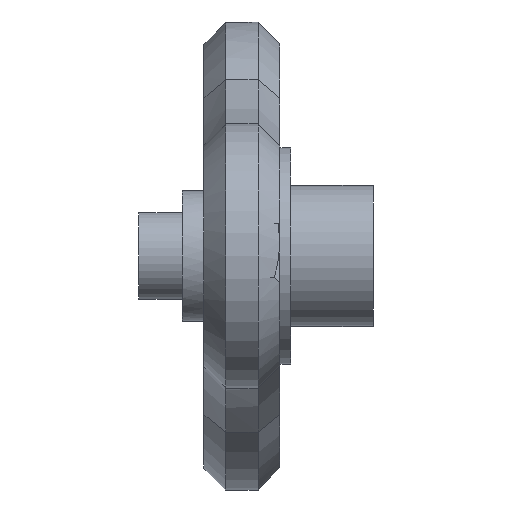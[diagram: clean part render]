
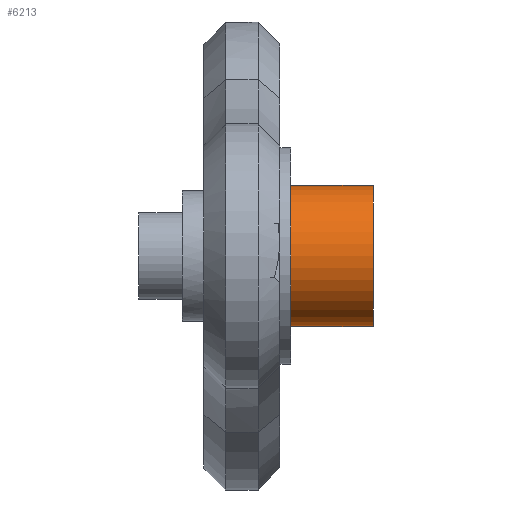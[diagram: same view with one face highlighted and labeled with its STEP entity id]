
A CAD part, left-side view. The second image highlights one B-rep face of the part: STEP entity #6213.
In plain terms, the highlighted cylindrical face has radius 3.25 mm (diameter 6.5 mm), a partial arc.
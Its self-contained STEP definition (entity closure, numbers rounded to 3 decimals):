
#776 = VERTEX_POINT('',#777);
#777 = CARTESIAN_POINT('',(0.,-4.3,-3.25));
#778 = VERTEX_POINT('',#779);
#779 = CARTESIAN_POINT('',(0.,-4.3,3.25));
#787 = CYLINDRICAL_SURFACE('',#788,3.25);
#788 = AXIS2_PLACEMENT_3D('',#789,#790,#791);
#789 = CARTESIAN_POINT('',(0.,-4.3,0.));
#790 = DIRECTION('',(0.,1.,0.));
#791 = DIRECTION('',(0.,-0.,1.));
#799 = PLANE('',#800);
#800 = AXIS2_PLACEMENT_3D('',#801,#802,#803);
#801 = CARTESIAN_POINT('',(0.,-4.3,0.));
#802 = DIRECTION('',(0.,-1.,-0.));
#803 = DIRECTION('',(0.,0.,-1.));
#811 = EDGE_CURVE('',#776,#812,#814,.T.);
#812 = VERTEX_POINT('',#813);
#813 = CARTESIAN_POINT('',(0.,-0.5,-3.25));
#814 = SURFACE_CURVE('',#815,(#819,#826),.PCURVE_S1.);
#815 = LINE('',#816,#817);
#816 = CARTESIAN_POINT('',(0.,-4.3,-3.25));
#817 = VECTOR('',#818,1.);
#818 = DIRECTION('',(0.,1.,0.));
#819 = PCURVE('',#787,#820);
#820 = DEFINITIONAL_REPRESENTATION('',(#821),#825);
#821 = LINE('',#822,#823);
#822 = CARTESIAN_POINT('',(3.142,0.));
#823 = VECTOR('',#824,1.);
#824 = DIRECTION('',(0.,1.));
#825 = ( GEOMETRIC_REPRESENTATION_CONTEXT(2) 
PARAMETRIC_REPRESENTATION_CONTEXT() REPRESENTATION_CONTEXT('2D SPACE',''
  ) );
#826 = PCURVE('',#827,#832);
#827 = CYLINDRICAL_SURFACE('',#828,3.25);
#828 = AXIS2_PLACEMENT_3D('',#829,#830,#831);
#829 = CARTESIAN_POINT('',(0.,-4.3,0.));
#830 = DIRECTION('',(0.,1.,0.));
#831 = DIRECTION('',(0.,-0.,1.));
#832 = DEFINITIONAL_REPRESENTATION('',(#833),#837);
#833 = LINE('',#834,#835);
#834 = CARTESIAN_POINT('',(3.142,0.));
#835 = VECTOR('',#836,1.);
#836 = DIRECTION('',(0.,1.));
#837 = ( GEOMETRIC_REPRESENTATION_CONTEXT(2) 
PARAMETRIC_REPRESENTATION_CONTEXT() REPRESENTATION_CONTEXT('2D SPACE',''
  ) );
#840 = VERTEX_POINT('',#841);
#841 = CARTESIAN_POINT('',(0.,-0.5,3.25));
#856 = PLANE('',#857);
#857 = AXIS2_PLACEMENT_3D('',#858,#859,#860);
#858 = CARTESIAN_POINT('',(0.,-0.5,0.));
#859 = DIRECTION('',(0.,-1.,-0.));
#860 = DIRECTION('',(0.,0.,-1.));
#868 = EDGE_CURVE('',#778,#840,#869,.T.);
#869 = SURFACE_CURVE('',#870,(#874,#881),.PCURVE_S1.);
#870 = LINE('',#871,#872);
#871 = CARTESIAN_POINT('',(0.,-4.3,3.25));
#872 = VECTOR('',#873,1.);
#873 = DIRECTION('',(0.,1.,0.));
#874 = PCURVE('',#787,#875);
#875 = DEFINITIONAL_REPRESENTATION('',(#876),#880);
#876 = LINE('',#877,#878);
#877 = CARTESIAN_POINT('',(0.,0.));
#878 = VECTOR('',#879,1.);
#879 = DIRECTION('',(0.,1.));
#880 = ( GEOMETRIC_REPRESENTATION_CONTEXT(2) 
PARAMETRIC_REPRESENTATION_CONTEXT() REPRESENTATION_CONTEXT('2D SPACE',''
  ) );
#881 = PCURVE('',#827,#882);
#882 = DEFINITIONAL_REPRESENTATION('',(#883),#887);
#883 = LINE('',#884,#885);
#884 = CARTESIAN_POINT('',(6.283,0.));
#885 = VECTOR('',#886,1.);
#886 = DIRECTION('',(0.,1.));
#887 = ( GEOMETRIC_REPRESENTATION_CONTEXT(2) 
PARAMETRIC_REPRESENTATION_CONTEXT() REPRESENTATION_CONTEXT('2D SPACE',''
  ) );
#5963 = EDGE_CURVE('',#840,#812,#5964,.T.);
#5964 = SURFACE_CURVE('',#5965,(#5970,#5977),.PCURVE_S1.);
#5965 = CIRCLE('',#5966,3.25);
#5966 = AXIS2_PLACEMENT_3D('',#5967,#5968,#5969);
#5967 = CARTESIAN_POINT('',(0.,-0.5,0.));
#5968 = DIRECTION('',(0.,-1.,0.));
#5969 = DIRECTION('',(-0.,0.,-1.));
#5970 = PCURVE('',#856,#5971);
#5971 = DEFINITIONAL_REPRESENTATION('',(#5972),#5976);
#5972 = CIRCLE('',#5973,3.25);
#5973 = AXIS2_PLACEMENT_2D('',#5974,#5975);
#5974 = CARTESIAN_POINT('',(0.,0.));
#5975 = DIRECTION('',(1.,0.));
#5976 = ( GEOMETRIC_REPRESENTATION_CONTEXT(2) 
PARAMETRIC_REPRESENTATION_CONTEXT() REPRESENTATION_CONTEXT('2D SPACE',''
  ) );
#5977 = PCURVE('',#827,#5978);
#5978 = DEFINITIONAL_REPRESENTATION('',(#5979),#5983);
#5979 = LINE('',#5980,#5981);
#5980 = CARTESIAN_POINT('',(9.425,3.8));
#5981 = VECTOR('',#5982,1.);
#5982 = DIRECTION('',(-1.,0.));
#5983 = ( GEOMETRIC_REPRESENTATION_CONTEXT(2) 
PARAMETRIC_REPRESENTATION_CONTEXT() REPRESENTATION_CONTEXT('2D SPACE',''
  ) );
#6191 = EDGE_CURVE('',#778,#776,#6192,.T.);
#6192 = SURFACE_CURVE('',#6193,(#6198,#6205),.PCURVE_S1.);
#6193 = CIRCLE('',#6194,3.25);
#6194 = AXIS2_PLACEMENT_3D('',#6195,#6196,#6197);
#6195 = CARTESIAN_POINT('',(0.,-4.3,0.));
#6196 = DIRECTION('',(0.,-1.,0.));
#6197 = DIRECTION('',(-0.,0.,-1.));
#6198 = PCURVE('',#799,#6199);
#6199 = DEFINITIONAL_REPRESENTATION('',(#6200),#6204);
#6200 = CIRCLE('',#6201,3.25);
#6201 = AXIS2_PLACEMENT_2D('',#6202,#6203);
#6202 = CARTESIAN_POINT('',(0.,0.));
#6203 = DIRECTION('',(1.,0.));
#6204 = ( GEOMETRIC_REPRESENTATION_CONTEXT(2) 
PARAMETRIC_REPRESENTATION_CONTEXT() REPRESENTATION_CONTEXT('2D SPACE',''
  ) );
#6205 = PCURVE('',#827,#6206);
#6206 = DEFINITIONAL_REPRESENTATION('',(#6207),#6211);
#6207 = LINE('',#6208,#6209);
#6208 = CARTESIAN_POINT('',(9.425,0.));
#6209 = VECTOR('',#6210,1.);
#6210 = DIRECTION('',(-1.,0.));
#6211 = ( GEOMETRIC_REPRESENTATION_CONTEXT(2) 
PARAMETRIC_REPRESENTATION_CONTEXT() REPRESENTATION_CONTEXT('2D SPACE',''
  ) );
#6213 = ADVANCED_FACE('',(#6214),#827,.T.);
#6214 = FACE_BOUND('',#6215,.T.);
#6215 = EDGE_LOOP('',(#6216,#6217,#6218,#6219));
#6216 = ORIENTED_EDGE('',*,*,#811,.F.);
#6217 = ORIENTED_EDGE('',*,*,#6191,.F.);
#6218 = ORIENTED_EDGE('',*,*,#868,.T.);
#6219 = ORIENTED_EDGE('',*,*,#5963,.T.);
